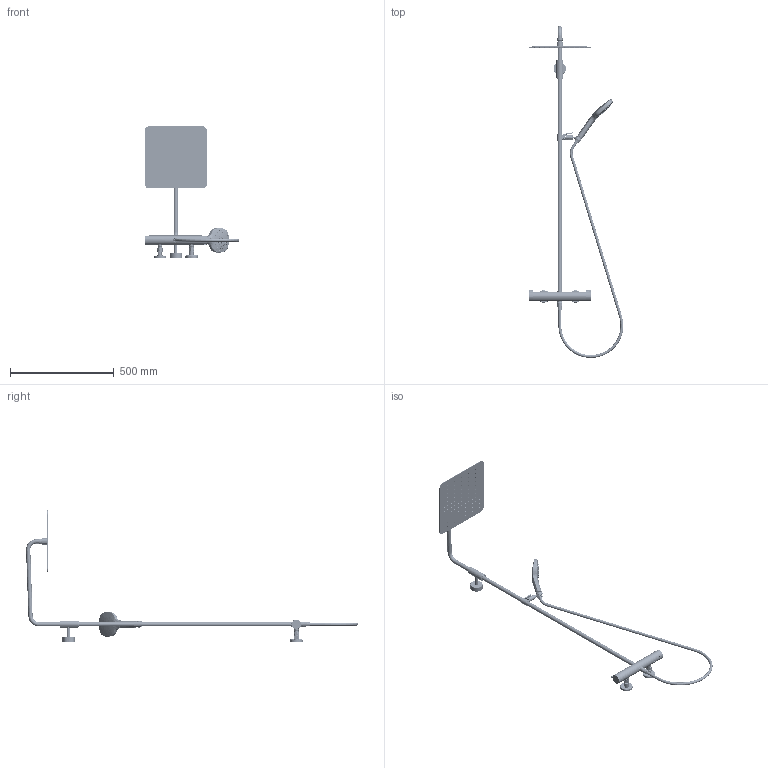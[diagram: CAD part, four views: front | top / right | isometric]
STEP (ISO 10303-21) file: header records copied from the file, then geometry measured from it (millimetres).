
FILE_DESCRIPTION((''),'2;1');
FILE_NAME('26006363_ASM','2019-12-13T13:32:50',('LF994'),(''),'CREO PARAMETRIC BY PTC INC, 2018500','CREO PARAMETRIC BY PTC INC, 2018500','');
FILE_SCHEMA(('CONFIG_CONTROL_DESIGN'));
Products named in the file (62): 615467_637503; 616194; 616196; 614324; 613188; 613801; 613636_AF7; 606155; 600343; 607557; 607558; 600341; 600270; 600271; 504008-503685_AF0_ASM; 613636_AF8; 504008-503685_AF1_ASM; 612818_AF0; 612818_AF1; 614271; 614275; 614439; 614436; 614276; 614272; P32500; 605224; 605229; 603902; 605236; 605234; 605223_20_6; 605225_20_8; 605233; 605218; 602107; 605228; 605227; 605240; 605246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
Assembly tree (69 placements, depth 6):
  26006363_ASM
    615467_637503
    616194
    616196
    614324
    613188
    613801  x2
    504008-503685_AF0_ASM
      613636_AF7
      606155
      600343
      607557
      607558
      600341
      600270
      600271
    504008-503685_AF1_ASM
      613636_AF8
      606155
      600343
      607557
      607558
      600341
      600270
      600271
    612818_AF0
    612818_AF1
    614271
    614275
    614439
    614436
    614276
    614272
    P32500
    508351_ASM
      605224
      605229
      603902
      605236
      605234
      605223_20_6
      605225_20_8
      605233
      605218
      602107
      605228
      605227
      605240
      605246
    506120_2
    506120_3
    LFF1
    538386_ASM
      K0413_ASM_1_ASM
        K0413_ASM_1_ASM_1_ASM
          K0413_ASM_1_ASM_1_ASM_1_ASM
            MSBR-40_1_1_1
            MSBR-39_1_1_1
            MSBR-17_1_1_1
            MSBR-16_1_1_1
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Bounding box: 456.83 x 1601.85 x 634.1 mm (x, y, z)
Topology: 62 solids, 63 shells, 7265 faces, 17716 edges, 10790 vertices
Faces by surface type: bspline 3848, cylinder 1232, plane 943, cone 694, torus 431, extrusion 79, sphere 34, revolution 4
Entity records: 556944 total; most frequent: CARTESIAN_POINT 422465, ORIENTED_EDGE 34620, EDGE_CURVE 17310, DIRECTION 15789, B_SPLINE_CURVE_WITH_KNOTS 11244, VERTEX_POINT 10562, EDGE_LOOP 7790, FACE_OUTER_BOUND 7090
